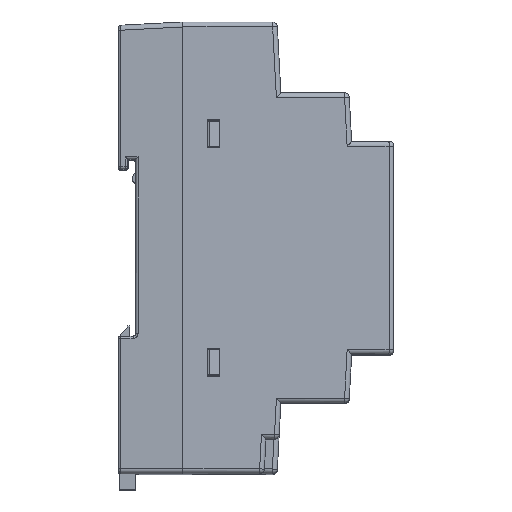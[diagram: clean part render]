
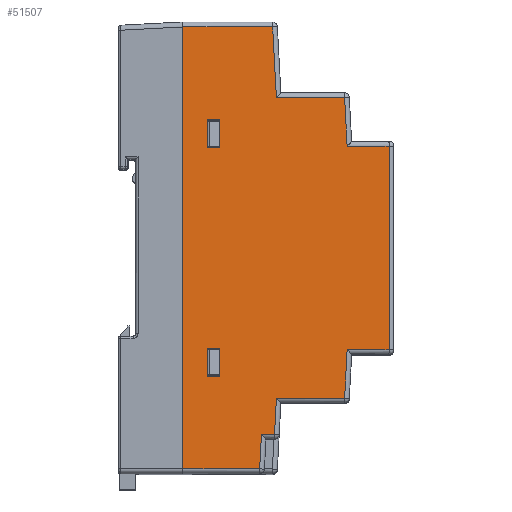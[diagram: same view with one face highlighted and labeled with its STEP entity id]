
A CAD part, top view. The second image highlights one B-rep face of the part: STEP entity #51507.
In plain terms, the highlighted planar face has unit normal (0.052, 0, 0.999) as drawn and (-0.999, 0, 0.052) by its records, which use the part's own axes.
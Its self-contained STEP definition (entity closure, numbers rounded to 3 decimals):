
#20401=DIRECTION('',(-0.003,-0.999,-0.052));
#20402=VECTOR('',#20401,7.01);
#20403=CARTESIAN_POINT('',(-44.169,-37.5,15.853));
#20404=LINE('',#20403,#20402);
#20408=DIRECTION('',(0.003,-0.999,0.052));
#20409=VECTOR('',#20408,14.27);
#20410=CARTESIAN_POINT('',(-44.051,44.5,18.107));
#20411=LINE('',#20410,#20409);
#20415=DIRECTION('',(0.003,-0.999,0.052));
#20416=VECTOR('',#20415,9.763);
#20417=CARTESIAN_POINT('',(-43.292,30.25,32.592));
#20418=LINE('',#20417,#20416);
#20422=DIRECTION('',(-0.003,-0.999,-0.052));
#20423=VECTOR('',#20422,9.763);
#20424=CARTESIAN_POINT('',(-43.265,-20.5,33.103));
#20425=LINE('',#20424,#20423);
#20429=DIRECTION('',(-0.003,-0.999,-0.052));
#20430=VECTOR('',#20429,7.26);
#20431=CARTESIAN_POINT('',(-44.012,-30.25,18.853));
#20432=LINE('',#20431,#20430);
#20436=DIRECTION('',(0.,1.,0.));
#20437=VECTOR('',#20436,5.66);
#20438=CARTESIAN_POINT('',(-44.607,20.17,7.5));
#20439=LINE('',#20438,#20437);
#20443=DIRECTION('',(0.,-1.,0.));
#20444=VECTOR('',#20443,5.66);
#20445=CARTESIAN_POINT('',(-44.741,25.83,4.95));
#20446=LINE('',#20445,#20444);
#20450=DIRECTION('',(0.,1.,0.));
#20451=VECTOR('',#20450,5.66);
#20452=CARTESIAN_POINT('',(-44.607,-25.83,7.5));
#20453=LINE('',#20452,#20451);
#20457=DIRECTION('',(0.,-1.,0.));
#20458=VECTOR('',#20457,5.66);
#20459=CARTESIAN_POINT('',(-44.741,-20.17,4.95));
#20460=LINE('',#20459,#20458);
#20464=DIRECTION('',(0.052,0.,0.999));
#20465=VECTOR('',#20464,2.624);
#20466=CARTESIAN_POINT('',(-44.169,-37.5,15.853));
#20467=LINE('',#20466,#20465);
#20514=DIRECTION('',(0.052,0.,0.999));
#20515=VECTOR('',#20514,13.758);
#20516=CARTESIAN_POINT('',(-44.012,-30.25,18.853));
#20517=LINE('',#20516,#20515);
#20594=DIRECTION('',(0.052,0.,0.999));
#20595=VECTOR('',#20594,8.461);
#20596=CARTESIAN_POINT('',(-43.265,-20.5,33.103));
#20597=LINE('',#20596,#20595);
#22795=DIRECTION('',(0.,1.,0.));
#22796=VECTOR('',#22795,41.);
#22797=CARTESIAN_POINT('',(-42.822,-20.5,41.552));
#22798=LINE('',#22797,#22796);
#22833=DIRECTION('',(-0.052,0.,
-0.999));
#22834=VECTOR('',#22833,8.461);
#22835=CARTESIAN_POINT('',(-42.822,20.5,41.552));
#22836=LINE('',#22835,#22834);
#22883=DIRECTION('',(-0.052,0.,
-0.999));
#22884=VECTOR('',#22883,13.758);
#22885=CARTESIAN_POINT('',(-43.292,30.25,32.592));
#22886=LINE('',#22885,#22884);
#22926=DIRECTION('',(-0.052,0.,
-0.999));
#22927=VECTOR('',#22926,18.131);
#22928=CARTESIAN_POINT('',(-44.051,44.5,18.107));
#22929=LINE('',#22928,#22927);
#22933=DIRECTION('',(0.,-1.,0.));
#22934=VECTOR('',#22933,89.);
#22935=CARTESIAN_POINT('',(-45.,44.5,0.));
#22936=LINE('',#22935,#22934);
#23043=DIRECTION('',(0.052,0.,0.999));
#23044=VECTOR('',#23043,15.508);
#23045=CARTESIAN_POINT('',(-45.,-44.5,0.));
#23046=LINE('',#23045,#23044);
#28036=DIRECTION('',(-0.052,0.,-0.999));
#28037=VECTOR('',#28036,2.553);
#28038=CARTESIAN_POINT('',(-44.607,-25.83,7.5));
#28039=LINE('',#28038,#28037);
#28079=DIRECTION('',(0.052,0.,0.999));
#28080=VECTOR('',#28079,2.553);
#28081=CARTESIAN_POINT('',(-44.741,-20.17,4.95));
#28082=LINE('',#28081,#28080);
#28171=DIRECTION('',(-0.052,0.,-0.999));
#28172=VECTOR('',#28171,2.553);
#28173=CARTESIAN_POINT('',(-44.607,20.17,7.5));
#28174=LINE('',#28173,#28172);
#28214=DIRECTION('',(0.052,0.,0.999));
#28215=VECTOR('',#28214,2.553);
#28216=CARTESIAN_POINT('',(-44.741,25.83,4.95));
#28217=LINE('',#28216,#28215);
#47779=CARTESIAN_POINT('',(-44.169,-37.5,15.853));
#47780=CARTESIAN_POINT('',(-44.032,-37.5,18.473));
#47781=VERTEX_POINT('',#47779);
#47782=VERTEX_POINT('',#47780);
#47783=CARTESIAN_POINT('',(-44.188,-44.5,15.487));
#47784=VERTEX_POINT('',#47783);
#47785=CARTESIAN_POINT('',(-45.,-44.5,0.));
#47786=VERTEX_POINT('',#47785);
#47787=CARTESIAN_POINT('',(-45.,44.5,0.));
#47788=VERTEX_POINT('',#47787);
#47789=CARTESIAN_POINT('',(-44.051,44.5,18.107));
#47790=VERTEX_POINT('',#47789);
#47791=CARTESIAN_POINT('',(-44.012,30.25,18.853));
#47792=VERTEX_POINT('',#47791);
#47793=CARTESIAN_POINT('',(-43.292,30.25,32.592));
#47794=VERTEX_POINT('',#47793);
#47795=CARTESIAN_POINT('',(-43.265,20.5,33.103));
#47796=VERTEX_POINT('',#47795);
#47797=CARTESIAN_POINT('',(-42.822,20.5,41.552));
#47798=VERTEX_POINT('',#47797);
#47799=CARTESIAN_POINT('',(-42.822,-20.5,41.552));
#47800=VERTEX_POINT('',#47799);
#47801=CARTESIAN_POINT('',(-43.265,-20.5,33.103));
#47802=VERTEX_POINT('',#47801);
#47803=CARTESIAN_POINT('',(-43.292,-30.25,32.592));
#47804=VERTEX_POINT('',#47803);
#47805=CARTESIAN_POINT('',(-44.012,-30.25,18.853));
#47806=VERTEX_POINT('',#47805);
#47807=CARTESIAN_POINT('',(-44.607,20.17,7.5));
#47808=CARTESIAN_POINT('',(-44.607,25.83,7.5));
#47809=VERTEX_POINT('',#47807);
#47810=VERTEX_POINT('',#47808);
#47811=CARTESIAN_POINT('',(-44.741,25.83,4.95));
#47812=VERTEX_POINT('',#47811);
#47813=CARTESIAN_POINT('',(-44.741,20.17,4.95));
#47814=VERTEX_POINT('',#47813);
#47815=CARTESIAN_POINT('',(-44.607,-25.83,7.5));
#47816=CARTESIAN_POINT('',(-44.607,-20.17,7.5));
#47817=VERTEX_POINT('',#47815);
#47818=VERTEX_POINT('',#47816);
#47819=CARTESIAN_POINT('',(-44.741,-20.17,4.95));
#47820=VERTEX_POINT('',#47819);
#47821=CARTESIAN_POINT('',(-44.741,-25.83,4.95));
#47822=VERTEX_POINT('',#47821);
#51452=CARTESIAN_POINT('',(-45.,-47.118,0.));
#51453=DIRECTION('',(0.999,0.,-0.052));
#51454=DIRECTION('',(0.,-1.,0.));
#51455=AXIS2_PLACEMENT_3D('',#51452,#51453,#51454);
#51456=PLANE('',#51455);
#51458=ORIENTED_EDGE('',*,*,#51457,.F.);
#51460=ORIENTED_EDGE('',*,*,#51459,.T.);
#51462=ORIENTED_EDGE('',*,*,#51461,.F.);
#51464=ORIENTED_EDGE('',*,*,#51463,.F.);
#51466=ORIENTED_EDGE('',*,*,#51465,.F.);
#51468=ORIENTED_EDGE('',*,*,#51467,.T.);
#51470=ORIENTED_EDGE('',*,*,#51469,.F.);
#51472=ORIENTED_EDGE('',*,*,#51471,.T.);
#51474=ORIENTED_EDGE('',*,*,#51473,.F.);
#51476=ORIENTED_EDGE('',*,*,#51475,.F.);
#51478=ORIENTED_EDGE('',*,*,#51477,.F.);
#51480=ORIENTED_EDGE('',*,*,#51479,.T.);
#51482=ORIENTED_EDGE('',*,*,#51481,.F.);
#51484=ORIENTED_EDGE('',*,*,#51483,.T.);
#51485=EDGE_LOOP('',(#51458,#51460,#51462,#51464,#51466,#51468,#51470,#51472,
#51474,#51476,#51478,#51480,#51482,#51484));
#51486=FACE_OUTER_BOUND('',#51485,.F.);
#51488=ORIENTED_EDGE('',*,*,#51487,.T.);
#51490=ORIENTED_EDGE('',*,*,#51489,.F.);
#51492=ORIENTED_EDGE('',*,*,#51491,.T.);
#51494=ORIENTED_EDGE('',*,*,#51493,.F.);
#51495=EDGE_LOOP('',(#51488,#51490,#51492,#51494));
#51496=FACE_BOUND('',#51495,.F.);
#51498=ORIENTED_EDGE('',*,*,#51497,.T.);
#51500=ORIENTED_EDGE('',*,*,#51499,.F.);
#51502=ORIENTED_EDGE('',*,*,#51501,.T.);
#51504=ORIENTED_EDGE('',*,*,#51503,.F.);
#51505=EDGE_LOOP('',(#51498,#51500,#51502,#51504));
#51506=FACE_BOUND('',#51505,.F.);
#51457=EDGE_CURVE('',#47781,#47782,#20467,.T.);
#51459=EDGE_CURVE('',#47781,#47784,#20404,.T.);
#51461=EDGE_CURVE('',#47786,#47784,#23046,.T.);
#51463=EDGE_CURVE('',#47788,#47786,#22936,.T.);
#51465=EDGE_CURVE('',#47790,#47788,#22929,.T.);
#51467=EDGE_CURVE('',#47790,#47792,#20411,.T.);
#51469=EDGE_CURVE('',#47794,#47792,#22886,.T.);
#51471=EDGE_CURVE('',#47794,#47796,#20418,.T.);
#51473=EDGE_CURVE('',#47798,#47796,#22836,.T.);
#51475=EDGE_CURVE('',#47800,#47798,#22798,.T.);
#51477=EDGE_CURVE('',#47802,#47800,#20597,.T.);
#51479=EDGE_CURVE('',#47802,#47804,#20425,.T.);
#51481=EDGE_CURVE('',#47806,#47804,#20517,.T.);
#51483=EDGE_CURVE('',#47806,#47782,#20432,.T.);
#51487=EDGE_CURVE('',#47809,#47810,#20439,.T.);
#51489=EDGE_CURVE('',#47812,#47810,#28217,.T.);
#51491=EDGE_CURVE('',#47812,#47814,#20446,.T.);
#51493=EDGE_CURVE('',#47809,#47814,#28174,.T.);
#51497=EDGE_CURVE('',#47817,#47818,#20453,.T.);
#51499=EDGE_CURVE('',#47820,#47818,#28082,.T.);
#51501=EDGE_CURVE('',#47820,#47822,#20460,.T.);
#51503=EDGE_CURVE('',#47817,#47822,#28039,.T.);
#51507=ADVANCED_FACE('',(#51486,#51496,#51506),#51456,.F.);
